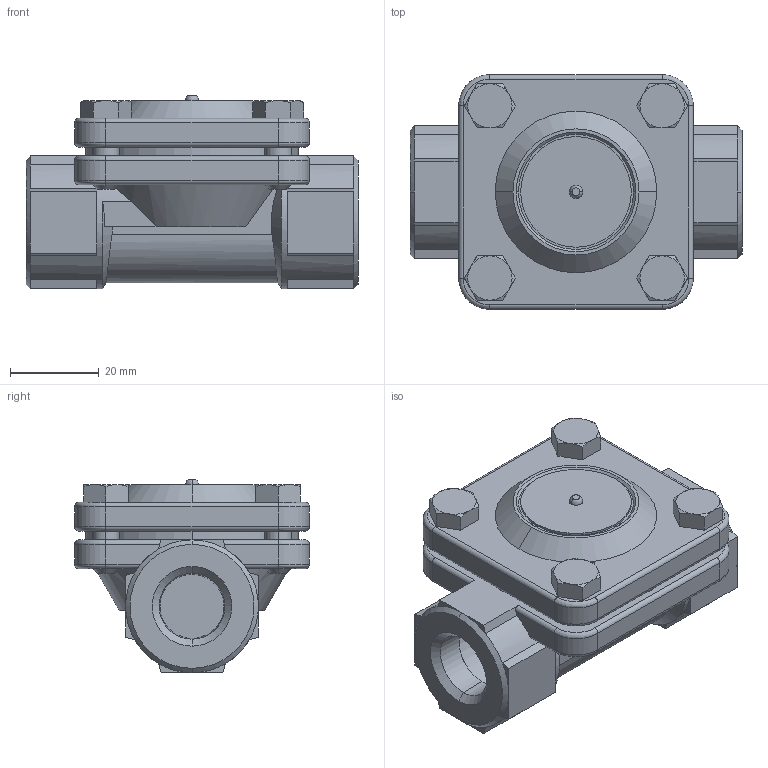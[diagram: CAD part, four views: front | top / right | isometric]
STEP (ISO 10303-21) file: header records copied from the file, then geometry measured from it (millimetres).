
FILE_DESCRIPTION( (''), '2;1');
FILE_NAME ('PC1276.4340.10A_12797.stp','2023-07-04T16:28:12',(''),(''),'spGate 19.8.4 (****-****-****-****)','','');
FILE_SCHEMA (('AUTOMOTIVE_DESIGN'));
Length unit declared in the file: millimetre
Bounding box: 75 x 53 x 43.7 mm (x, y, z)
Volume: 82193.6 mm3; surface area: 18426.1 mm2
Topology: 1 solids, 1 shells, 234 faces, 546 edges, 330 vertices
Faces by surface type: plane 111, bspline 72, cylinder 49, sphere 2
Entity records: 12051 total; most frequent: CARTESIAN_POINT 2574, ORIENTED_EDGE 1092, DIRECTION 960, COLOUR_RGB 781, PRESENTATION_STYLE_ASSIGNMENT 781, STYLED_ITEM 781, EDGE_CURVE 546, DRAUGHTING_PRE_DEFINED_CURVE_FONT 546
